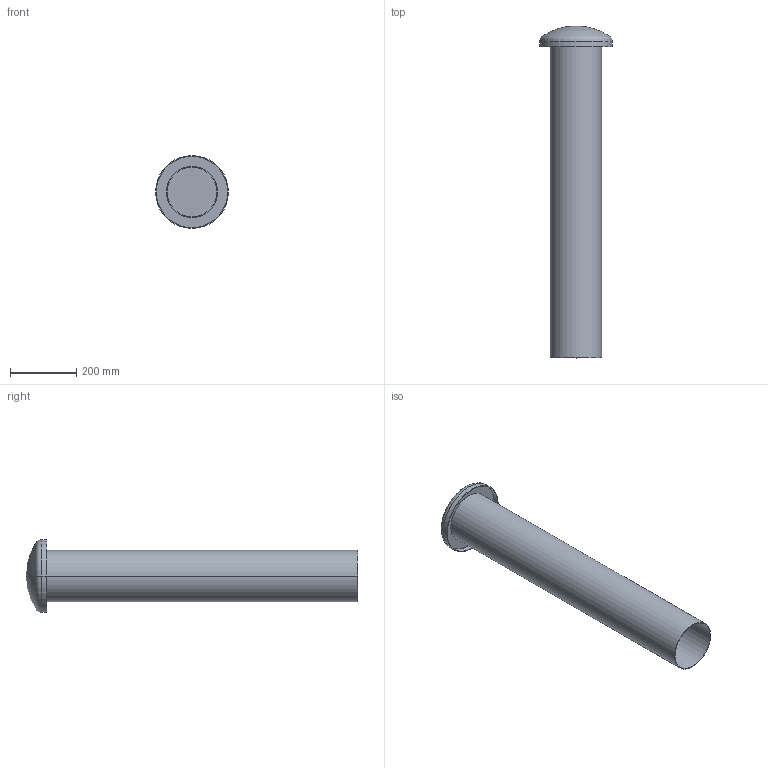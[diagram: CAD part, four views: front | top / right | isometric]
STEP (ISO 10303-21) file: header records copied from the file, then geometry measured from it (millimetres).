
FILE_DESCRIPTION((''),'2;1');
FILE_NAME('017_000119','2019-01-25T',('set'),('HUBER SE'),'PRO/ENGINEER BY PARAMETRIC TECHNOLOGY CORPORATION, 2017170','PRO/ENGINEER BY PARAMETRIC TECHNOLOGY CORPORATION, 2017170','');
FILE_SCHEMA(('AUTOMOTIVE_DESIGN { 1 0 10303 214 1 1 1 1 }'));
Length unit declared in the file: millimetre
Products named in the file (1): 017_000119
Bounding box: 219 x 1000 x 219 mm (x, y, z)
Volume: 1060296.2 mm3; surface area: 1097284.8 mm2
Topology: 1 solids, 2 shells, 21 faces, 42 edges, 24 vertices
Faces by surface type: cylinder 8, plane 5, torus 4, sphere 4
Entity records: 1079 total; most frequent: DIRECTION 123, COLOUR_RGB 106, CARTESIAN_POINT 94, ORIENTED_EDGE 76, PROPERTY_DEFINITION 67, REPRESENTATION 66, PROPERTY_DEFINITION_REPRESENTATION 66, AXIS2_PLACEMENT_3D 56
